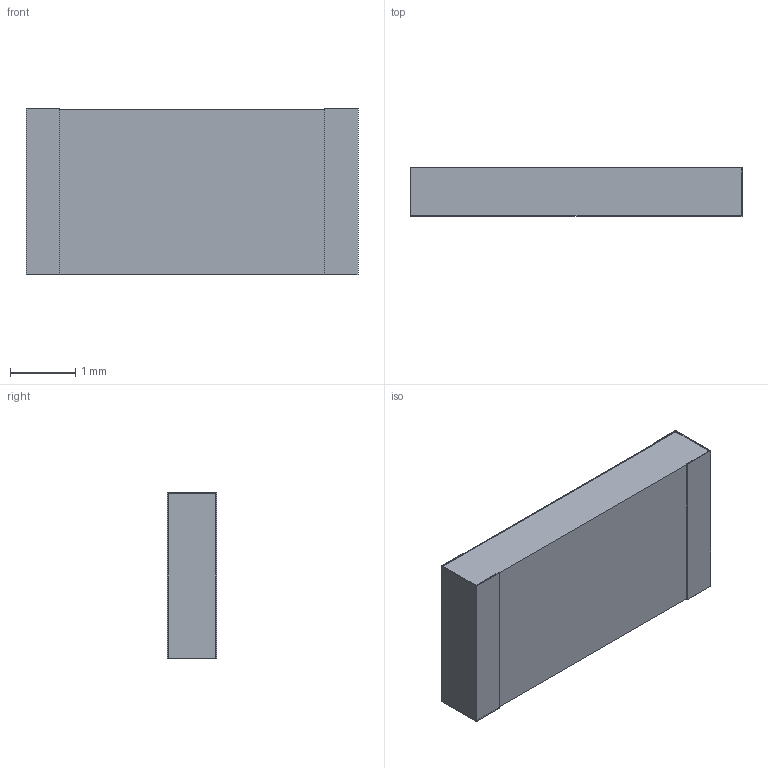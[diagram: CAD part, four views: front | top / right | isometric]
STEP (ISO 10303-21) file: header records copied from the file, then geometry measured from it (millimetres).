
FILE_DESCRIPTION(/* description */ (''),/* implementation_level */ '2;1');
FILE_NAME(/* name */ 'C:\Users\mulla\Documents\Work\SEI Models\Inventor Files\HVC\HVC2010_stp.stp',/* time_stamp */ '2021-07-26T17:30:43-04:00',/* author */ ('mulla'),/* organization */ (''),/* preprocessor_version */ 'ST-DEVELOPER v16.1',/* originating_system */ 'Autodesk Inventor 2016',/* authorisation */ '');
FILE_SCHEMA (('AUTOMOTIVE_DESIGN { 1 0 10303 214 3 1 1 }'));
Length unit declared in the file: millimetre
Products named in the file (1): HVC2010
Bounding box: 5.08 x 0.76 x 2.54 mm (x, y, z)
Volume: 9.6 mm3; surface area: 75.1 mm2
Topology: 4 solids, 4 shells, 32 faces, 72 edges, 48 vertices
Faces by surface type: plane 32
Entity records: 950 total; most frequent: CARTESIAN_POINT 153, ORIENTED_EDGE 144, DIRECTION 138, LINE 72, VECTOR 72, EDGE_CURVE 72, VERTEX_POINT 48, STYLED_ITEM 36
